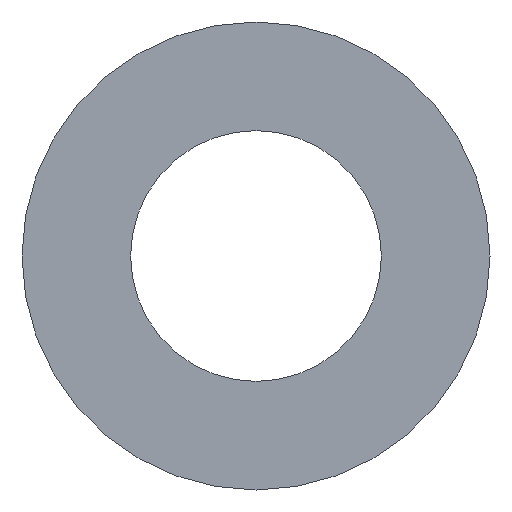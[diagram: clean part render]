
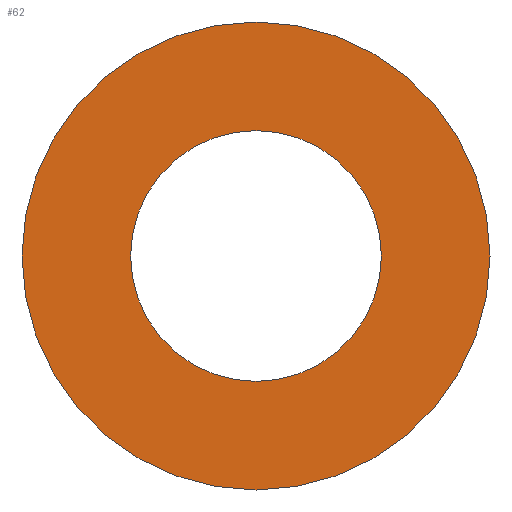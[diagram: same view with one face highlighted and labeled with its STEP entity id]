
A CAD part, front view. The second image highlights one B-rep face of the part: STEP entity #62.
In plain terms, the highlighted planar face has unit normal (0, -1, 0).
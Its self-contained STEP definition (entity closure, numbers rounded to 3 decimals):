
#20=PLANE('',#83);
#26=ORIENTED_EDGE('',*,*,#30,.T.);
#27=ORIENTED_EDGE('',*,*,#32,.F.);
#30=EDGE_CURVE('',#34,#34,#38,.T.);
#32=EDGE_CURVE('',#36,#36,#40,.T.);
#34=VERTEX_POINT('',#106);
#36=VERTEX_POINT('',#111);
#38=CIRCLE('',#78,52.);
#40=CIRCLE('',#81,97.);
#46=EDGE_LOOP('',(#26));
#47=EDGE_LOOP('',(#27));
#54=FACE_BOUND('',#46,.T.);
#55=FACE_BOUND('',#47,.T.);
#62=ADVANCED_FACE('',(#54,#55),#20,.F.);
#78=AXIS2_PLACEMENT_3D('',#105,#89,#90);
#81=AXIS2_PLACEMENT_3D('',#110,#95,#96);
#83=AXIS2_PLACEMENT_3D('',#114,#99,#100);
#89=DIRECTION('',(0.,1.,0.));
#90=DIRECTION('',(1.,0.,0.));
#95=DIRECTION('',(0.,1.,0.));
#96=DIRECTION('',(1.,0.,0.));
#99=DIRECTION('',(0.,1.,0.));
#100=DIRECTION('',(0.,0.,1.));
#105=CARTESIAN_POINT('',(0.,-1.5,0.));
#106=CARTESIAN_POINT('',(52.,-1.5,0.));
#110=CARTESIAN_POINT('',(0.,-1.5,0.));
#111=CARTESIAN_POINT('',(97.,-1.5,0.));
#114=CARTESIAN_POINT('',(0.,-1.5,0.));
